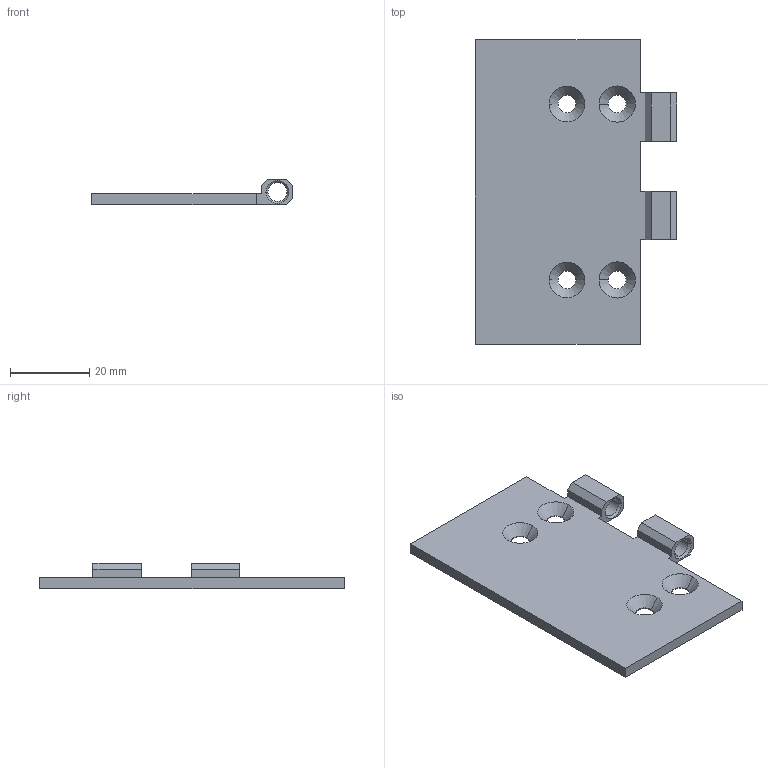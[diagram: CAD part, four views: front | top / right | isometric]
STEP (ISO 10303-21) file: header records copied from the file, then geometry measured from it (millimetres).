
FILE_DESCRIPTION((''),'2;1');
FILE_NAME('2602-328','2016-08-15T',('jpeters'),('Keithley Instruments'),'CREO PARAMETRIC BY PTC INC, 2016050','CREO PARAMETRIC BY PTC INC, 2016050','');
FILE_SCHEMA(('CONFIG_CONTROL_DESIGN'));
Length unit declared in the file: inch
Products named in the file (1): 2602-328
Bounding box: 50.8 x 76.96 x 6.35 mm (x, y, z)
Volume: 9324 mm3; surface area: 8091.5 mm2
Topology: 1 solids, 1 shells, 52 faces, 134 edges, 84 vertices
Faces by surface type: plane 24, cone 16, cylinder 12
Entity records: 1634 total; most frequent: DIRECTION 278, CARTESIAN_POINT 270, ORIENTED_EDGE 268, EDGE_CURVE 134, VECTOR 94, LINE 94, AXIS2_PLACEMENT_3D 92, VERTEX_POINT 84
